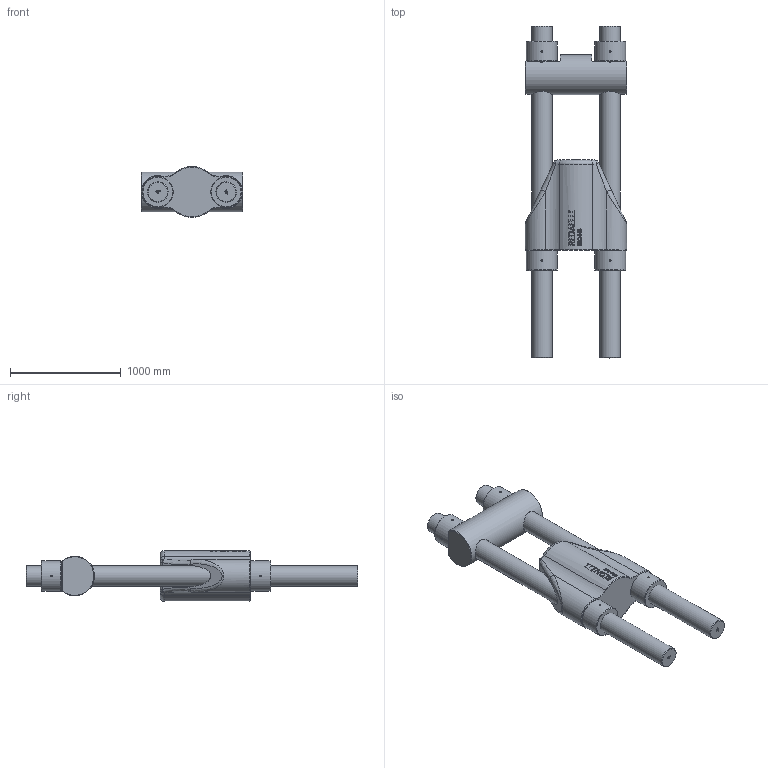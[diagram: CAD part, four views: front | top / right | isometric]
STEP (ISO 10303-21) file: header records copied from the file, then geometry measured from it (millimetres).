
FILE_DESCRIPTION(/* description */ (''),/* implementation_level */ '2;1');
FILE_NAME(/* name */ 'D:\Clienti\Redaelli (inventor)\BRC\STEP\Arrangemet\BRC148 72 111 0.stp',/* time_stamp */ '2021-05-08T08:49:08+02:00',/* author */ ('fabri'),/* organization */ (''),/* preprocessor_version */ 'ST-DEVELOPER v16.13',/* originating_system */ 'Autodesk Inventor 2018',/* authorisation */ '');
FILE_SCHEMA (('AUTOMOTIVE_DESIGN { 1 0 10303 214 3 1 1 }'));
Length unit declared in the file: millimetre
Products named in the file (5): BRC020 72 111 0; BRC020 71 112 0; BRC020 71 114 0_ROD; BRC020 71 113 0; BRC020 71 114 0_NUT
Assembly tree (8 placements, depth 2):
  BRC020 72 111 0
    BRC020 71 112 0
    BRC020 71 114 0_ROD  x2
    BRC020 71 113 0
    BRC020 71 114 0_NUT  x4
Bounding box: 914 x 3000 x 459.09 mm (x, y, z)
Volume: 423314697.3 mm3; surface area: 8903192.3 mm2
Topology: 8 solids, 8 shells, 1540 faces, 4118 edges, 2734 vertices
Faces by surface type: plane 836, bspline 579, cylinder 71, cone 30, torus 20, sphere 4
Full cylindrical faces by diameter (mm): 15 x16, 178.505 x4, 185 x2, 193 x4, 278 x4, 358 x1
Entity records: 30298 total; most frequent: CARTESIAN_POINT 11106, ORIENTED_EDGE 4466, DIRECTION 2869, EDGE_CURVE 2233, VERTEX_POINT 1488, LINE 1327, VECTOR 1327, EDGE_LOOP 961
